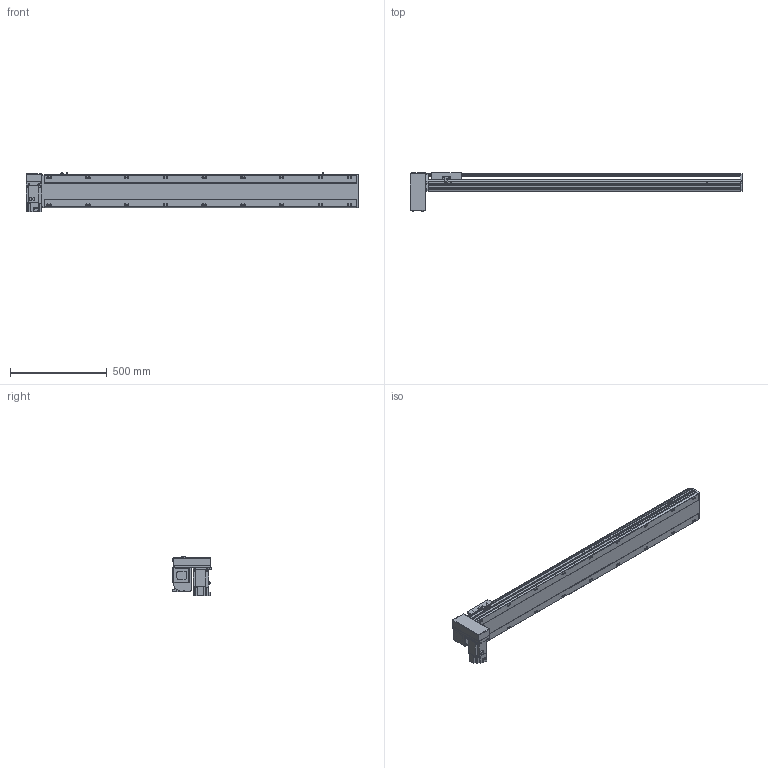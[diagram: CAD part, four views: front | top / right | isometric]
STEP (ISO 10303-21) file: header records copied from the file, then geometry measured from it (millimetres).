
FILE_DESCRIPTION( ( 'STEP AP214' ), '1' );
FILE_NAME( 'x:/temp/worker_5/temp/exporttempdir_3988_33_HBsU8/format_0/PBS170-P40-S1350-RD-T75-C1-N(0).stp', '2022-06-08T05:36:01', ( 'License CC BY-ND 4.0' ), ( 'CADENAS' ), ' ', 'PARTsolutions', ' ' );
FILE_SCHEMA( ( 'AUTOMOTIVE_DESIGN { 1 0 10303 214 1 1 1 1 }' ) );
Length unit declared in the file: millimetre
Products named in the file (7): PBS170-P40-S1350-RD-T75-C1-N(0); _PBS170-S1350()_body; _PBS170T-RD_motors; _T75-p1; _PBS170_sliser; _PBS170_plant; _PBS170_sensor
Assembly tree (8 placements, depth 2):
  PBS170-P40-S1350-RD-T75-C1-N(0)
    _PBS170-S1350()_body
    _PBS170T-RD_motors
    _T75-p1
    _PBS170_sliser
    _PBS170_plant
    _PBS170_sensor  x3
Bounding box: 1713 x 201 x 205.3 mm (x, y, z)
Volume: 13484859.6 mm3; surface area: 1740827.6 mm2
Topology: 8 solids, 8 shells, 1098 faces, 2915 edges, 1900 vertices
Faces by surface type: plane 693, cylinder 347, cone 48, sphere 8, torus 2
Full cylindrical faces by diameter (mm): 3.242 x4, 4 x2, 4.4 x4, 4.5 x6, 4.917 x4, 6 x9, 6.647 x26, 7 x2, 7.5 x4, 8 x8, 8.5 x18, 10 x4, 10.5 x18, 11 x2, 30 x2, 40 x1, 70 x1
Entity records: 40382 total; most frequent: CARTESIAN_POINT 6389, DIRECTION 5370, ORIENTED_EDGE 5088, EDGE_CURVE 2544, AXIS2_PLACEMENT_3D 1867, VERTEX_POINT 1754, LINE 1636, VECTOR 1636
